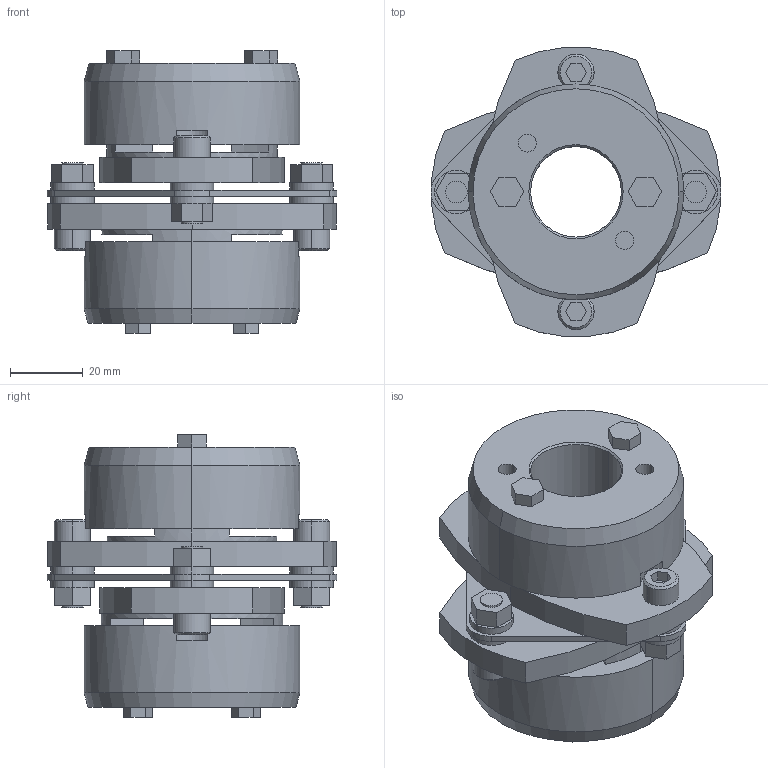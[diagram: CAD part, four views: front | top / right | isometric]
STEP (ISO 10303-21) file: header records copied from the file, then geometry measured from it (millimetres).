
FILE_DESCRIPTION((''),'2;1');
FILE_NAME('LCS-80T7-25×30.stp','2011-09-12T16:35:23',(''),(''),'AutoCAD STEP 2000i','AutoCAD 2000i',', , ');
FILE_SCHEMA(('CONFIG_CONTROL_DESIGN'));
Length unit declared in the file: millimetre
Products named in the file (12): LCS-80T7-24×30; 忣兜1; LC80T7-T030; LC80T7-T028; LC80T7-T024-1; LC80T7-T024; LC80T7-T022; LC80T7-T019-1; LC80T7-T019; LC80T7-T017-1; LC80T7-T017; LCS80-ITA
Assembly tree (11 placements, depth 2):
  LCS-80T7-24×30
    忣兜1
    LC80T7-T030
    LC80T7-T028
    LC80T7-T024-1
    LC80T7-T024
    LC80T7-T022
    LC80T7-T019-1
    LC80T7-T019
    LC80T7-T017-1
    LC80T7-T017
    LCS80-ITA
Bounding box: 80 x 79.95 x 78.05 mm (x, y, z)
Volume: 152513.1 mm3; surface area: 43866.2 mm2
Topology: 1 solids, 1 shells, 240 faces, 592 edges, 388 vertices
Faces by surface type: plane 136, cylinder 84, cone 20
Entity records: 7413 total; most frequent: DIRECTION 1308, CARTESIAN_POINT 1232, ORIENTED_EDGE 1184, EDGE_CURVE 592, AXIS2_PLACEMENT_3D 464, VERTEX_POINT 388, VECTOR 380, LINE 380
